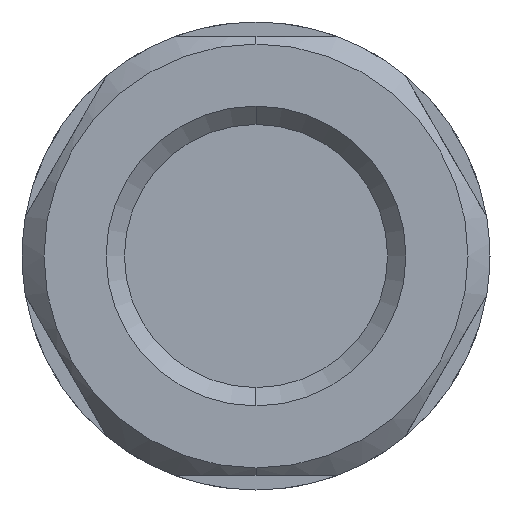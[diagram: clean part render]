
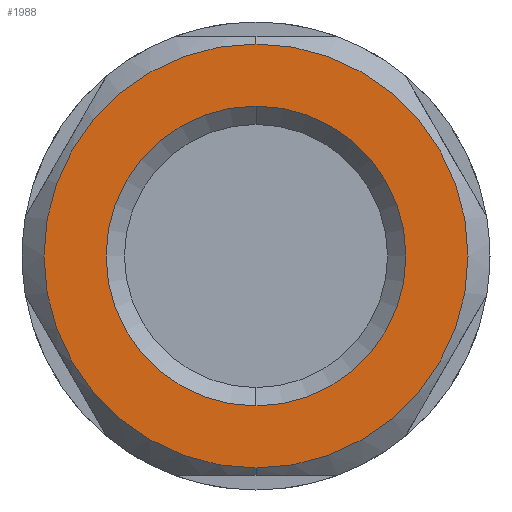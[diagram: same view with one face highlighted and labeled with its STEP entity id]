
A CAD part, left-side view. The second image highlights one B-rep face of the part: STEP entity #1988.
In plain terms, the highlighted planar face has unit normal (-1, 0, 0).
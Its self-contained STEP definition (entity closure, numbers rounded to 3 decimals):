
#43 = ORIENTED_EDGE ( 'NONE', *, *, #2601, .F. ) ;
#129 = DIRECTION ( 'NONE',  ( 0., 0., 1. ) ) ;
#198 = FACE_OUTER_BOUND ( 'NONE', #1627, .T. ) ;
#201 = CARTESIAN_POINT ( 'NONE',  ( -8.5, 0., 10.25 ) ) ;
#228 = DIRECTION ( 'NONE',  ( 0., 0., -1. ) ) ;
#333 = DIRECTION ( 'NONE',  ( 0., 0., 1. ) ) ;
#400 = VERTEX_POINT ( 'NONE', #1108 ) ;
#423 = ORIENTED_EDGE ( 'NONE', *, *, #1258, .F. ) ;
#486 = EDGE_CURVE ( 'NONE', #2127, #2048, #2153, .T. ) ;
#496 = AXIS2_PLACEMENT_3D ( 'NONE', #1506, #1687, #228 ) ;
#514 = CARTESIAN_POINT ( 'NONE',  ( -8.5, 0., 0. ) ) ;
#706 = EDGE_LOOP ( 'NONE', ( #43, #423 ) ) ;
#721 = ORIENTED_EDGE ( 'NONE', *, *, #1860, .T. ) ;
#842 = PLANE ( 'NONE',  #496 ) ;
#859 = AXIS2_PLACEMENT_3D ( 'NONE', #1476, #2542, #1704 ) ;
#1087 = AXIS2_PLACEMENT_3D ( 'NONE', #1712, #2321, #2568 ) ;
#1108 = CARTESIAN_POINT ( 'NONE',  ( -8.5, 0., -10.25 ) ) ;
#1258 = EDGE_CURVE ( 'NONE', #400, #2570, #1603, .T. ) ;
#1394 = DIRECTION ( 'NONE',  ( -1., 0., 0. ) ) ;
#1476 = CARTESIAN_POINT ( 'NONE',  ( -8.5, 0., 0. ) ) ;
#1506 = CARTESIAN_POINT ( 'NONE',  ( -8.5, 14.5, 0. ) ) ;
#1603 = CIRCLE ( 'NONE', #2316, 10.25 ) ;
#1627 = EDGE_LOOP ( 'NONE', ( #721, #2308 ) ) ;
#1687 = DIRECTION ( 'NONE',  ( 1., 0., 0. ) ) ;
#1704 = DIRECTION ( 'NONE',  ( 0., 0., 1. ) ) ;
#1712 = CARTESIAN_POINT ( 'NONE',  ( -8.5, 0., 0. ) ) ;
#1760 = CARTESIAN_POINT ( 'NONE',  ( -8.5, 0., -14.5 ) ) ;
#1834 = CIRCLE ( 'NONE', #859, 10.25 ) ;
#1860 = EDGE_CURVE ( 'NONE', #2048, #2127, #2024, .T. ) ;
#1988 = ADVANCED_FACE ( 'NONE', ( #2312, #198 ), #842, .F. ) ;
#2007 = DIRECTION ( 'NONE',  ( -1., 0., 0. ) ) ;
#2024 = CIRCLE ( 'NONE', #2743, 14.5 ) ;
#2038 = CARTESIAN_POINT ( 'NONE',  ( -8.5, 0., 0. ) ) ;
#2048 = VERTEX_POINT ( 'NONE', #1760 ) ;
#2127 = VERTEX_POINT ( 'NONE', #2725 ) ;
#2153 = CIRCLE ( 'NONE', #1087, 14.5 ) ;
#2308 = ORIENTED_EDGE ( 'NONE', *, *, #486, .T. ) ;
#2312 = FACE_BOUND ( 'NONE', #706, .T. ) ;
#2316 = AXIS2_PLACEMENT_3D ( 'NONE', #514, #2007, #333 ) ;
#2321 = DIRECTION ( 'NONE',  ( -1., 0., 0. ) ) ;
#2542 = DIRECTION ( 'NONE',  ( -1., 0., 0. ) ) ;
#2568 = DIRECTION ( 'NONE',  ( 0., 0., 1. ) ) ;
#2570 = VERTEX_POINT ( 'NONE', #201 ) ;
#2601 = EDGE_CURVE ( 'NONE', #2570, #400, #1834, .T. ) ;
#2725 = CARTESIAN_POINT ( 'NONE',  ( -8.5, 0., 14.5 ) ) ;
#2743 = AXIS2_PLACEMENT_3D ( 'NONE', #2038, #1394, #129 ) ;
